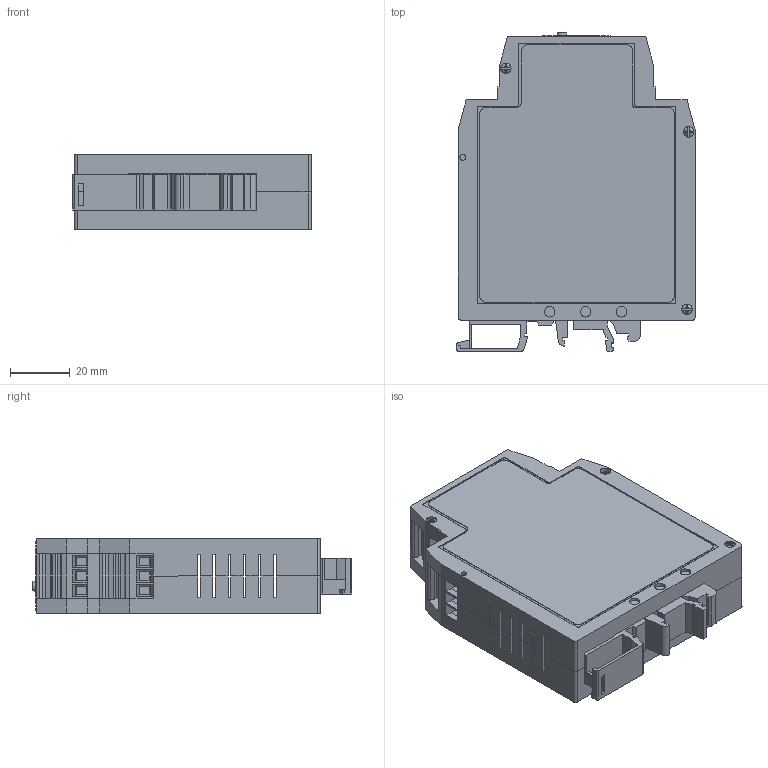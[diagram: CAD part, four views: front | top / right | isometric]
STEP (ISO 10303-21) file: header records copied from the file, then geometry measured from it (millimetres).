
FILE_DESCRIPTION(/* description */ (''),/* implementation_level */ '2;1');
FILE_NAME(/* name */ 'D:\WorkIMT\Project IMT\iT, iTM, iOT\На сайт\МТ.МЕЛИССА.БС.ХХ.stp',/* time_stamp */ '2021-12-02T18:56:37+03:00',/* author */ ('Иван'),/* organization */ (''),/* preprocessor_version */ 'ST-DEVELOPER v17.2',/* originating_system */ 'Autodesk Inventor 2019',/* authorisation */ '');
FILE_SCHEMA (('AUTOMOTIVE_DESIGN { 1 0 10303 214 3 1 1 }'));
Length unit declared in the file: millimetre
Products named in the file (17): МТ.МЕЛИССА.
БС.01_TOP; МТ.iOT.КБ.01; UEGH-SE_5_H.Select__00457814.sat; МТ.iOT.КЛ.01; Part5.sat; МТ.iOT.ФР.01; Винт М2.5х20; МТ.МЕЛИССА.
БС.НЛЕВ.01; МТ.МЕЛИССА.
БС.НПР.01; МТ.МЕЛИССА.
БС.НЛИЦ.01; DesignRootModel; Submodel-L-3WEGW_part_L-3WEGW; Submodel-C_WDIREEVX.1.1DxProjectsIOT_TINY_v1IOT_TINY_PWR_v1BLayout3DI
mportedPartModelsUser Library-LED RG.STEP; User Library-LED RG.STEP; Submodel-0795HIM-130G-G_part_TS-A4PV-130; Submodel-C_WDIREEVX.1.1DxProjectsIOT_TINY_v1IOT_TINY_PWR_v1BLayout3DI
mportedPartModels43396.stp; 43396.stp
Assembly tree (22 placements, depth 5):
  МТ.МЕЛИССА.
БС.01_TOP
    МТ.iOT.КБ.01  x2
      UEGH-SE_5_H.Select__00457814.sat
    МТ.iOT.КЛ.01
      Part5.sat
    МТ.iOT.ФР.01
    Винт М2.5х20  x6
    МТ.МЕЛИССА.
БС.НЛЕВ.01
    МТ.МЕЛИССА.
БС.НПР.01
    МТ.МЕЛИССА.
БС.НЛИЦ.01
    DesignRootModel
      Submodel-L-3WEGW_part_L-3WEGW
        Submodel-C_WDIREEVX.1.1DxProjectsIOT_TINY_v1IOT_TINY_PWR_v1BLayout3DI
mportedPartModelsUser Library-LED RG.STEP
          User Library-LED RG.STEP
      Submodel-0795HIM-130G-G_part_TS-A4PV-130
        Submodel-C_WDIREEVX.1.1DxProjectsIOT_TINY_v1IOT_TINY_PWR_v1BLayout3DI
mportedPartModels43396.stp
          43396.stp
Bounding box: 79.6 x 106.76 x 25 mm (x, y, z)
Volume: 58317.2 mm3; surface area: 81709.9 mm2
Topology: 15 solids, 15 shells, 1624 faces, 4444 edges, 2945 vertices
Faces by surface type: plane 1270, cylinder 308, bspline 28, torus 10, cone 5, sphere 3
Full cylindrical faces by diameter (mm): 0.9 x4, 0.95 x4, 1.2 x1, 1.25 x12, 1.35 x4, 1.7 x1, 2 x14, 2.08 x2, 2.4 x1, 2.5 x6, 3 x5, 3.1 x2, 3.5 x39, 3.6 x2, 3.8 x1, 4 x12, 5.05 x1
Entity records: 43833 total; most frequent: CARTESIAN_POINT 7680, ORIENTED_EDGE 7344, DIRECTION 7174, EDGE_CURVE 3672, LINE 2844, VECTOR 2844, VERTEX_POINT 2435, AXIS2_PLACEMENT_3D 2165
